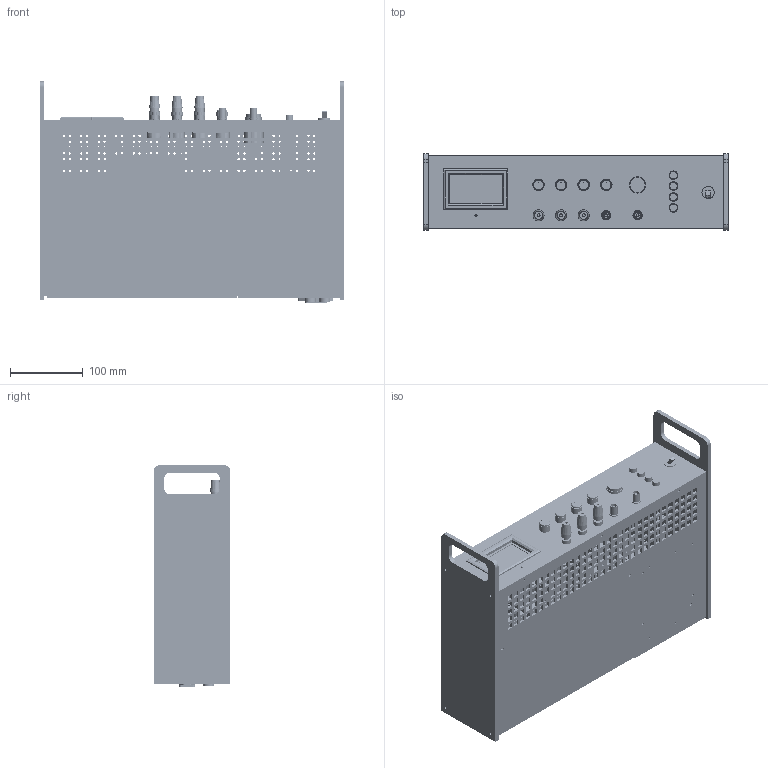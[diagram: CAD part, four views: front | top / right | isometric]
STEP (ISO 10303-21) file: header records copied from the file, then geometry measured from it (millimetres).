
FILE_DESCRIPTION(/* description */ ('VariCAD 2014-2.05 AP-214'),/* implementation_level */ '2;1');
FILE_NAME(/* name */ 'ISG9050.stp',/* time_stamp */ '2016-10-10T18:39:03+02:00',/* author */ (''),/* organization */ (''),/* preprocessor_version */ 'ST-DEVELOPER v14',/* originating_system */ 'VariCAD 2014-2.05; kernel version (20130303)',/* authorisation */ '');
FILE_SCHEMA (('AUTOMOTIVE_DESIGN'));
Products named in the file (37): ISG9050
Assembly tree (36 placements, depth 2):
  ISG9050
    (unnamed)
    (unnamed)
    (unnamed)
    (unnamed)
    (unnamed)
    (unnamed)
    (unnamed)
    (unnamed)
    (unnamed)
    (unnamed)
    (unnamed)
    (unnamed)
    (unnamed)
    (unnamed)
    (unnamed)
    (unnamed)
    (unnamed)
    (unnamed)
    (unnamed)
    (unnamed)
    (unnamed)
    (unnamed)
    (unnamed)
    (unnamed)
    (unnamed)
    (unnamed)
    (unnamed)
    (unnamed)
    (unnamed)
    (unnamed)
    (unnamed)
    (unnamed)
    (unnamed)
    (unnamed)
    (unnamed)
    (unnamed)
Bounding box: 418 x 105 x 304.1 mm (x, y, z)
Volume: 3364577.1 mm3; surface area: 1331607.3 mm2
Topology: 105 solids, 105 shells, 4017 faces, 10451 edges, 6884 vertices
Faces by surface type: plane 2517, cylinder 1484, cone 14, torus 2
Entity records: 128568 total; most frequent: DIRECTION 21725, CARTESIAN_POINT 21489, ORIENTED_EDGE 20902, EDGE_CURVE 10451, LINE 7421, VECTOR 7421, AXIS2_PLACEMENT_3D 7152, VERTEX_POINT 6884
